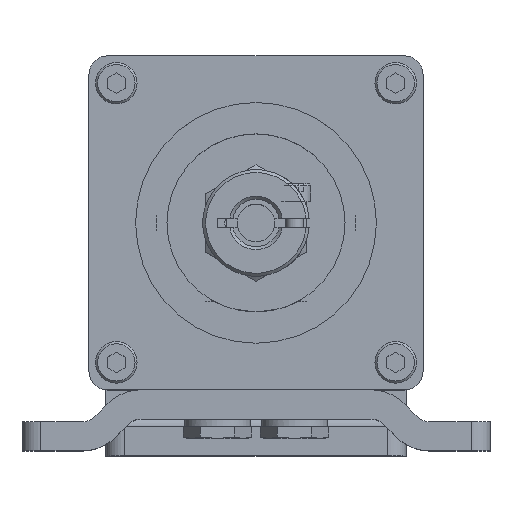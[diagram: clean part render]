
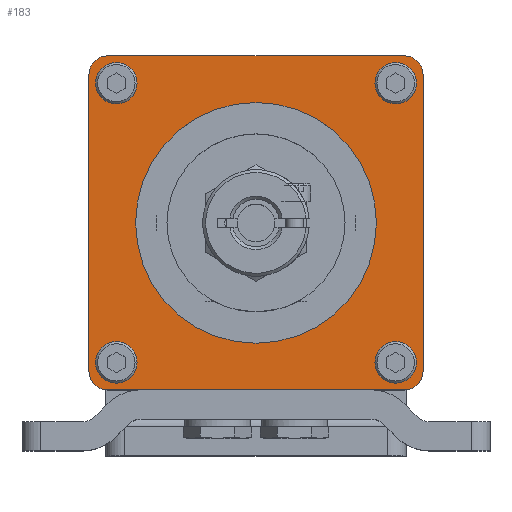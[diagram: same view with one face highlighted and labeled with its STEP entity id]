
A CAD part, top view. The second image highlights one B-rep face of the part: STEP entity #183.
In plain terms, the highlighted planar face has unit normal (0, 0, 1).
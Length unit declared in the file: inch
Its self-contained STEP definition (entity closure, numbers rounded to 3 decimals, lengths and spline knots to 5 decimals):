
#7 = VECTOR ( 'NONE', #6539, 39.37008 ) ;
#183 = ADVANCED_FACE ( 'NONE', ( #3526, #5461, #1726, #9380, #2664, #7252 ), #7318, .T. ) ;
#482 = VERTEX_POINT ( 'NONE', #10727 ) ;
#672 = AXIS2_PLACEMENT_3D ( 'NONE', #8352, #6418, #10210 ) ;
#721 = ORIENTED_EDGE ( 'NONE', *, *, #11736, .F. ) ;
#768 = LINE ( 'NONE', #10510, #7 ) ;
#778 = EDGE_CURVE ( 'NONE', #11380, #11380, #4979, .T. ) ;
#803 = VECTOR ( 'NONE', #3612, 39.37008 ) ;
#810 = DIRECTION ( 'NONE',  ( 0., 1., 0. ) ) ;
#813 = DIRECTION ( 'NONE',  ( 0., 0., 1. ) ) ;
#918 = EDGE_LOOP ( 'NONE', ( #6892 ) ) ;
#1026 = EDGE_CURVE ( 'NONE', #6500, #2244, #11060, .T. ) ;
#1203 = VERTEX_POINT ( 'NONE', #10902 ) ;
#1220 = CARTESIAN_POINT ( 'NONE',  ( 0.985, 1.11, 0.85 ) ) ;
#1337 = VECTOR ( 'NONE', #7395, 39.37008 ) ;
#1641 = CARTESIAN_POINT ( 'NONE',  ( 0.985, 0.985, 0.85 ) ) ;
#1726 = FACE_BOUND ( 'NONE', #8373, .T. ) ;
#1832 = ORIENTED_EDGE ( 'NONE', *, *, #8486, .T. ) ;
#1953 = EDGE_LOOP ( 'NONE', ( #721 ) ) ;
#2059 = ORIENTED_EDGE ( 'NONE', *, *, #3430, .T. ) ;
#2103 = DIRECTION ( 'NONE',  ( 1., 0., 0. ) ) ;
#2244 = VERTEX_POINT ( 'NONE', #6905 ) ;
#2315 = CIRCLE ( 'NONE', #11876, 0.07874 ) ;
#2492 = DIRECTION ( 'NONE',  ( 1., 0., 0. ) ) ;
#2516 = CARTESIAN_POINT ( 'NONE',  ( -0.84936, -0.9281, 0.85 ) ) ;
#2611 = EDGE_LOOP ( 'NONE', ( #5088 ) ) ;
#2621 = CARTESIAN_POINT ( 'NONE',  ( -0.9281, -0.9281, 0.85 ) ) ;
#2664 = FACE_OUTER_BOUND ( 'NONE', #10286, .T. ) ;
#2842 = VERTEX_POINT ( 'NONE', #11351 ) ;
#2862 = ORIENTED_EDGE ( 'NONE', *, *, #5724, .T. ) ;
#3064 = DIRECTION ( 'NONE',  ( 0., 0., 1. ) ) ;
#3066 = CIRCLE ( 'NONE', #5442, 0.125 ) ;
#3171 = EDGE_CURVE ( 'NONE', #482, #482, #6019, .T. ) ;
#3223 = DIRECTION ( 'NONE',  ( -1., 0., 0. ) ) ;
#3336 = CARTESIAN_POINT ( 'NONE',  ( 0.9281, -0.9281, 0.85 ) ) ;
#3430 = EDGE_CURVE ( 'NONE', #5774, #2842, #10403, .T. ) ;
#3526 = FACE_BOUND ( 'NONE', #2611, .T. ) ;
#3565 = ORIENTED_EDGE ( 'NONE', *, *, #9606, .T. ) ;
#3585 = AXIS2_PLACEMENT_3D ( 'NONE', #10820, #11702, #6041 ) ;
#3606 = CARTESIAN_POINT ( 'NONE',  ( -0.985, 1.11, 0.85 ) ) ;
#3612 = DIRECTION ( 'NONE',  ( 0., -1., 0. ) ) ;
#3658 = CARTESIAN_POINT ( 'NONE',  ( 0.985, -0.985, 0.85 ) ) ;
#3842 = CARTESIAN_POINT ( 'NONE',  ( -0.84936, 0.9281, 0.85 ) ) ;
#3983 = CARTESIAN_POINT ( 'NONE',  ( -0.9281, 0.9281, 0.85 ) ) ;
#4433 = DIRECTION ( 'NONE',  ( 0., 0., 1. ) ) ;
#4520 = CARTESIAN_POINT ( 'NONE',  ( -0.8, 0., 0.85 ) ) ;
#4543 = EDGE_CURVE ( 'NONE', #10221, #1203, #3066, .T. ) ;
#4551 = CARTESIAN_POINT ( 'NONE',  ( -1.11, -0.985, 0.85 ) ) ;
#4674 = CARTESIAN_POINT ( 'NONE',  ( 0.985, 1.11, 0.85 ) ) ;
#4799 = AXIS2_PLACEMENT_3D ( 'NONE', #3983, #10626, #2103 ) ;
#4979 = CIRCLE ( 'NONE', #4799, 0.07874 ) ;
#4982 = DIRECTION ( 'NONE',  ( 0., 0., 1. ) ) ;
#5088 = ORIENTED_EDGE ( 'NONE', *, *, #778, .F. ) ;
#5278 = DIRECTION ( 'NONE',  ( 1., 0., 0. ) ) ;
#5442 = AXIS2_PLACEMENT_3D ( 'NONE', #9325, #7333, #10199 ) ;
#5461 = FACE_BOUND ( 'NONE', #8681, .T. ) ;
#5724 = EDGE_CURVE ( 'NONE', #6293, #5774, #8203, .T. ) ;
#5774 = VERTEX_POINT ( 'NONE', #3606 ) ;
#6019 = CIRCLE ( 'NONE', #7606, 0.07874 ) ;
#6029 = DIRECTION ( 'NONE',  ( 1., 0., 0. ) ) ;
#6041 = DIRECTION ( 'NONE',  ( -1., 0., 0. ) ) ;
#6058 = EDGE_CURVE ( 'NONE', #8046, #8046, #7264, .T. ) ;
#6197 = CARTESIAN_POINT ( 'NONE',  ( 1.11, -0.985, 0.85 ) ) ;
#6293 = VERTEX_POINT ( 'NONE', #1220 ) ;
#6329 = CARTESIAN_POINT ( 'NONE',  ( 1.11, -0.985, 0.85 ) ) ;
#6418 = DIRECTION ( 'NONE',  ( 0., 0., 1. ) ) ;
#6500 = VERTEX_POINT ( 'NONE', #6197 ) ;
#6539 = DIRECTION ( 'NONE',  ( 1., 0., 0. ) ) ;
#6562 = ORIENTED_EDGE ( 'NONE', *, *, #9445, .T. ) ;
#6892 = ORIENTED_EDGE ( 'NONE', *, *, #6058, .F. ) ;
#6905 = CARTESIAN_POINT ( 'NONE',  ( 1.11, 0.985, 0.85 ) ) ;
#7112 = CARTESIAN_POINT ( 'NONE',  ( 1.00684, 0.9281, 0.85 ) ) ;
#7128 = DIRECTION ( 'NONE',  ( 0., 0., 1. ) ) ;
#7252 = FACE_BOUND ( 'NONE', #1953, .T. ) ;
#7264 = CIRCLE ( 'NONE', #11656, 0.07874 ) ;
#7299 = ORIENTED_EDGE ( 'NONE', *, *, #1026, .T. ) ;
#7318 = PLANE ( 'NONE',  #10342 ) ;
#7333 = DIRECTION ( 'NONE',  ( 0., 0., 1. ) ) ;
#7360 = ORIENTED_EDGE ( 'NONE', *, *, #11523, .F. ) ;
#7395 = DIRECTION ( 'NONE',  ( -1., 0., 0. ) ) ;
#7401 = LINE ( 'NONE', #4551, #803 ) ;
#7606 = AXIS2_PLACEMENT_3D ( 'NONE', #3336, #7128, #6029 ) ;
#7935 = VECTOR ( 'NONE', #810, 39.37008 ) ;
#8046 = VERTEX_POINT ( 'NONE', #7112 ) ;
#8052 = VERTEX_POINT ( 'NONE', #2516 ) ;
#8152 = CARTESIAN_POINT ( 'NONE',  ( 0.985, -1.11, 0.85 ) ) ;
#8203 = LINE ( 'NONE', #4674, #1337 ) ;
#8337 = VERTEX_POINT ( 'NONE', #8152 ) ;
#8352 = CARTESIAN_POINT ( 'NONE',  ( -0.985, 0.985, 0.85 ) ) ;
#8373 = EDGE_LOOP ( 'NONE', ( #7360 ) ) ;
#8486 = EDGE_CURVE ( 'NONE', #1203, #8337, #768, .T. ) ;
#8603 = CARTESIAN_POINT ( 'NONE',  ( -1.11, -0.985, 0.85 ) ) ;
#8681 = EDGE_LOOP ( 'NONE', ( #11254 ) ) ;
#8733 = AXIS2_PLACEMENT_3D ( 'NONE', #1641, #3064, #10591 ) ;
#8939 = CARTESIAN_POINT ( 'NONE',  ( 0.985, -0.985, 0.85 ) ) ;
#9234 = VERTEX_POINT ( 'NONE', #4520 ) ;
#9298 = ORIENTED_EDGE ( 'NONE', *, *, #4543, .T. ) ;
#9321 = CIRCLE ( 'NONE', #10922, 0.125 ) ;
#9325 = CARTESIAN_POINT ( 'NONE',  ( -0.985, -0.985, 0.85 ) ) ;
#9380 = FACE_BOUND ( 'NONE', #918, .T. ) ;
#9445 = EDGE_CURVE ( 'NONE', #2842, #10221, #7401, .T. ) ;
#9546 = CIRCLE ( 'NONE', #3585, 0.8 ) ;
#9606 = EDGE_CURVE ( 'NONE', #8337, #6500, #9321, .T. ) ;
#10091 = EDGE_CURVE ( 'NONE', #2244, #6293, #11125, .T. ) ;
#10115 = CARTESIAN_POINT ( 'NONE',  ( 0.9281, 0.9281, 0.85 ) ) ;
#10199 = DIRECTION ( 'NONE',  ( 1., 0., 0. ) ) ;
#10210 = DIRECTION ( 'NONE',  ( -1., 0., 0. ) ) ;
#10221 = VERTEX_POINT ( 'NONE', #8603 ) ;
#10286 = EDGE_LOOP ( 'NONE', ( #3565, #7299, #11724, #2862, #2059, #6562, #9298, #1832 ) ) ;
#10342 = AXIS2_PLACEMENT_3D ( 'NONE', #3658, #813, #11127 ) ;
#10403 = CIRCLE ( 'NONE', #672, 0.125 ) ;
#10510 = CARTESIAN_POINT ( 'NONE',  ( 0.985, -1.11, 0.85 ) ) ;
#10591 = DIRECTION ( 'NONE',  ( -1., 0., 0. ) ) ;
#10626 = DIRECTION ( 'NONE',  ( 0., 0., 1. ) ) ;
#10727 = CARTESIAN_POINT ( 'NONE',  ( 1.00684, -0.9281, 0.85 ) ) ;
#10820 = CARTESIAN_POINT ( 'NONE',  ( 0., 0., 0.85 ) ) ;
#10902 = CARTESIAN_POINT ( 'NONE',  ( -0.985, -1.11, 0.85 ) ) ;
#10922 = AXIS2_PLACEMENT_3D ( 'NONE', #8939, #4982, #3223 ) ;
#11060 = LINE ( 'NONE', #6329, #7935 ) ;
#11125 = CIRCLE ( 'NONE', #8733, 0.125 ) ;
#11127 = DIRECTION ( 'NONE',  ( -1., 0., 0. ) ) ;
#11190 = DIRECTION ( 'NONE',  ( 0., 0., 1. ) ) ;
#11254 = ORIENTED_EDGE ( 'NONE', *, *, #3171, .F. ) ;
#11351 = CARTESIAN_POINT ( 'NONE',  ( -1.11, 0.985, 0.85 ) ) ;
#11380 = VERTEX_POINT ( 'NONE', #3842 ) ;
#11523 = EDGE_CURVE ( 'NONE', #8052, #8052, #2315, .T. ) ;
#11656 = AXIS2_PLACEMENT_3D ( 'NONE', #10115, #11190, #5278 ) ;
#11702 = DIRECTION ( 'NONE',  ( 0., 0., 1. ) ) ;
#11724 = ORIENTED_EDGE ( 'NONE', *, *, #10091, .T. ) ;
#11736 = EDGE_CURVE ( 'NONE', #9234, #9234, #9546, .T. ) ;
#11876 = AXIS2_PLACEMENT_3D ( 'NONE', #2621, #4433, #2492 ) ;
